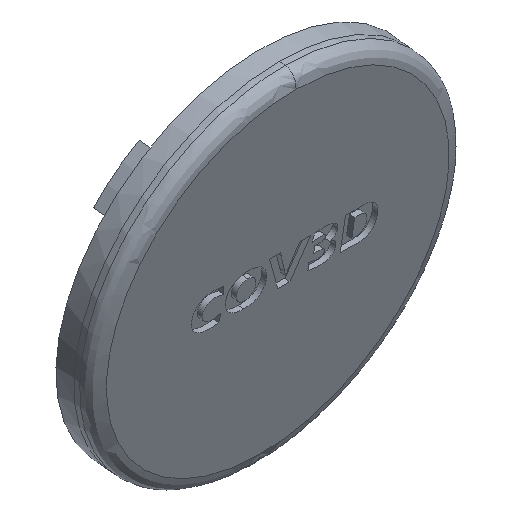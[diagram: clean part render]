
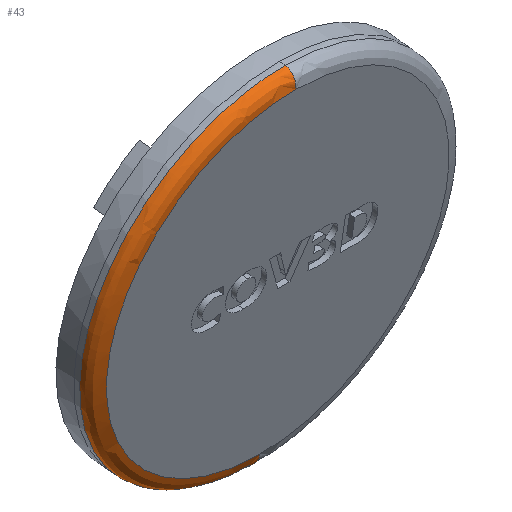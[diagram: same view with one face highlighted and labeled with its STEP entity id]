
A CAD part, isometric view. The second image highlights one B-rep face of the part: STEP entity #43.
In plain terms, the highlighted free-form (B-spline) face has degree [2, 2] with [3, 5] control points.
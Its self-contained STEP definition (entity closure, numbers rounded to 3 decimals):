
#43=ADVANCED_FACE('',(#110),#1043,.T.);
#110=FACE_OUTER_BOUND('',#186,.T.);
#186=EDGE_LOOP('',(#321,#322,#323,#324));
#321=ORIENTED_EDGE('',*,*,#577,.F.);
#322=ORIENTED_EDGE('',*,*,#578,.T.);
#323=ORIENTED_EDGE('',*,*,#579,.T.);
#324=ORIENTED_EDGE('',*,*,#713,.F.);
#577=EDGE_CURVE('',#888,#977,#727,.T.);
#578=EDGE_CURVE('',#888,#889,#728,.T.);
#579=EDGE_CURVE('',#889,#978,#729,.T.);
#713=EDGE_CURVE('',#977,#978,#746,.T.);
#727=(
BOUNDED_CURVE()
B_SPLINE_CURVE(2,(#2068,#2069,#2070,#2071,#2072),.UNSPECIFIED.,.F.,.F.)
B_SPLINE_CURVE_WITH_KNOTS((3,2,3),(0.,43.396,86.792),
 .UNSPECIFIED.)
CURVE()
GEOMETRIC_REPRESENTATION_ITEM()
RATIONAL_B_SPLINE_CURVE((1.,0.707,1.,0.707,1.))
REPRESENTATION_ITEM('')
);
#728=(
BOUNDED_CURVE()
B_SPLINE_CURVE(2,(#2073,#2074,#2075),.UNSPECIFIED.,.F.,.F.)
B_SPLINE_CURVE_WITH_KNOTS((3,3),(0.,3.727),.UNSPECIFIED.)
CURVE()
GEOMETRIC_REPRESENTATION_ITEM()
RATIONAL_B_SPLINE_CURVE((1.,0.707,1.))
REPRESENTATION_ITEM('')
);
#729=(
BOUNDED_CURVE()
B_SPLINE_CURVE(2,(#2076,#2077,#2078,#2079,#2080),.UNSPECIFIED.,.F.,.F.)
B_SPLINE_CURVE_WITH_KNOTS((3,2,3),(0.,43.396,86.792),
 .UNSPECIFIED.)
CURVE()
GEOMETRIC_REPRESENTATION_ITEM()
RATIONAL_B_SPLINE_CURVE((1.,0.707,1.,0.707,1.))
REPRESENTATION_ITEM('')
);
#746=(
BOUNDED_CURVE()
B_SPLINE_CURVE(2,(#2816,#2817,#2818),.UNSPECIFIED.,.F.,.F.)
B_SPLINE_CURVE_WITH_KNOTS((3,3),(0.,3.727),.UNSPECIFIED.)
CURVE()
GEOMETRIC_REPRESENTATION_ITEM()
RATIONAL_B_SPLINE_CURVE((1.,0.707,1.))
REPRESENTATION_ITEM('')
);
#888=VERTEX_POINT('',#1920);
#889=VERTEX_POINT('',#1921);
#977=VERTEX_POINT('',#2009);
#978=VERTEX_POINT('',#2010);
#1043=(
BOUNDED_SURFACE()
B_SPLINE_SURFACE(2,2,((#1190,#1191,#1192,#1193,#1194),(#1195,#1196,#1197,
#1198,#1199),(#1200,#1201,#1202,#1203,#1204)),.UNSPECIFIED.,.F.,.F.,.F.)
B_SPLINE_SURFACE_WITH_KNOTS((3,3),(3,2,3),(0.,3.727),(0.,43.396,
86.792),.UNSPECIFIED.)
GEOMETRIC_REPRESENTATION_ITEM()
RATIONAL_B_SPLINE_SURFACE(((1.,0.707,1.,0.707,1.),
(0.707,0.5,0.707,0.5,
0.707),(1.,0.707,1.,0.707,1.)))
REPRESENTATION_ITEM('')
SURFACE()
);
#1190=CARTESIAN_POINT('',(-0.114,-103.42,-28.291));
#1191=CARTESIAN_POINT('',(-35.872,-103.377,-28.286));
#1192=CARTESIAN_POINT('',(-35.872,-107.158,6.785));
#1193=CARTESIAN_POINT('',(-35.872,-110.94,41.857));
#1194=CARTESIAN_POINT('',(-0.114,-110.983,41.852));
#1195=CARTESIAN_POINT('',(-0.116,-105.78,-28.545));
#1196=CARTESIAN_POINT('',(-35.875,-105.737,-28.541));
#1197=CARTESIAN_POINT('',(-35.875,-109.518,6.531));
#1198=CARTESIAN_POINT('',(-35.875,-113.299,41.602));
#1199=CARTESIAN_POINT('',(-0.116,-113.342,41.598));
#1200=CARTESIAN_POINT('',(-0.116,-106.079,-25.771));
#1201=CARTESIAN_POINT('',(-33.047,-106.039,-25.767));
#1202=CARTESIAN_POINT('',(-33.047,-109.521,6.53));
#1203=CARTESIAN_POINT('',(-33.047,-113.003,38.828));
#1204=CARTESIAN_POINT('',(-0.116,-113.043,38.823));
#1920=CARTESIAN_POINT('',(-0.114,-103.42,-28.291));
#1921=CARTESIAN_POINT('',(-0.116,-106.079,-25.771));
#2009=CARTESIAN_POINT('',(-0.114,-110.983,41.852));
#2010=CARTESIAN_POINT('',(-0.116,-113.043,38.823));
#2068=CARTESIAN_POINT('',(-0.114,-103.42,-28.291));
#2069=CARTESIAN_POINT('',(-35.872,-103.377,-28.286));
#2070=CARTESIAN_POINT('',(-35.872,-107.158,6.785));
#2071=CARTESIAN_POINT('',(-35.872,-110.94,41.857));
#2072=CARTESIAN_POINT('',(-0.114,-110.983,41.852));
#2073=CARTESIAN_POINT('',(-0.114,-103.42,-28.291));
#2074=CARTESIAN_POINT('',(-0.116,-105.78,-28.545));
#2075=CARTESIAN_POINT('',(-0.116,-106.079,-25.771));
#2076=CARTESIAN_POINT('',(-0.116,-106.079,-25.771));
#2077=CARTESIAN_POINT('',(-33.047,-106.039,-25.767));
#2078=CARTESIAN_POINT('',(-33.047,-109.521,6.53));
#2079=CARTESIAN_POINT('',(-33.047,-113.003,38.828));
#2080=CARTESIAN_POINT('',(-0.116,-113.043,38.823));
#2816=CARTESIAN_POINT('',(-0.114,-110.983,41.852));
#2817=CARTESIAN_POINT('',(-0.116,-113.342,41.598));
#2818=CARTESIAN_POINT('',(-0.116,-113.043,38.823));
